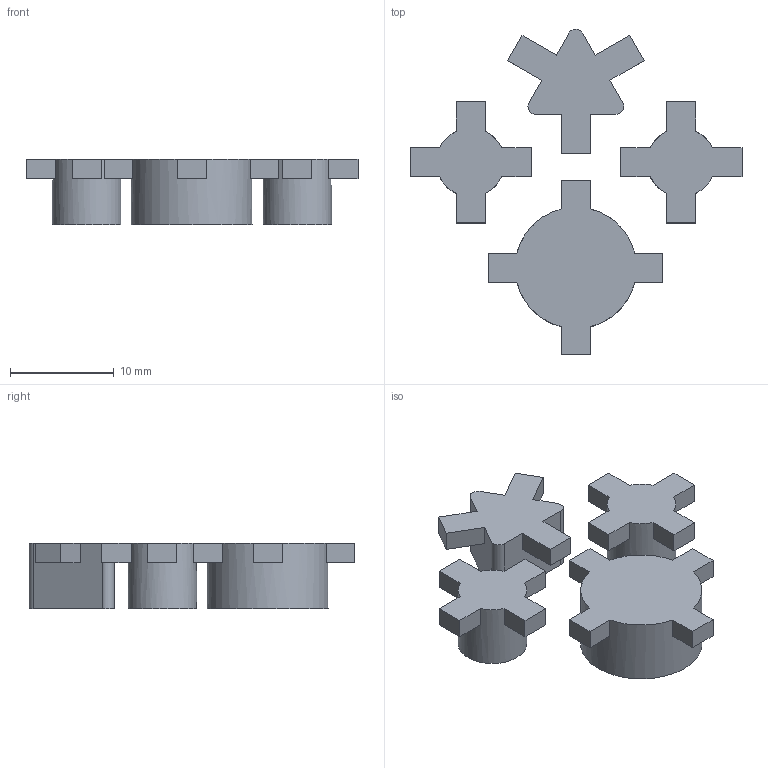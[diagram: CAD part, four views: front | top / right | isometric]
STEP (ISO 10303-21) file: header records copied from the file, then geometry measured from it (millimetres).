
FILE_DESCRIPTION (( 'STEP AP203' ), '1' );
FILE_NAME ('Action Buttons.step', '2015-03-14T23:35:29', ( '' ), ( '' ), 'SwSTEP 2.0', 'SolidWorks 2013', '' );
FILE_SCHEMA (( 'CONFIG_CONTROL_DESIGN' ));
Length unit declared in the file: inch
Products named in the file (1): Action Buttons
Bounding box: 31.97 x 31.37 x 6.35 mm (x, y, z)
Volume: 1630.8 mm3; surface area: 1525.4 mm2
Topology: 4 solids, 4 shells, 77 faces, 207 edges, 138 vertices
Faces by surface type: plane 71, cylinder 6
Full cylindrical faces by diameter (mm): 6.604 x2, 11.684 x1
Entity records: 2425 total; most frequent: CARTESIAN_POINT 414, ORIENTED_EDGE 402, DIRECTION 390, EDGE_CURVE 201, LINE 168, VECTOR 168, VERTEX_POINT 135, AXIS2_PLACEMENT_3D 111
